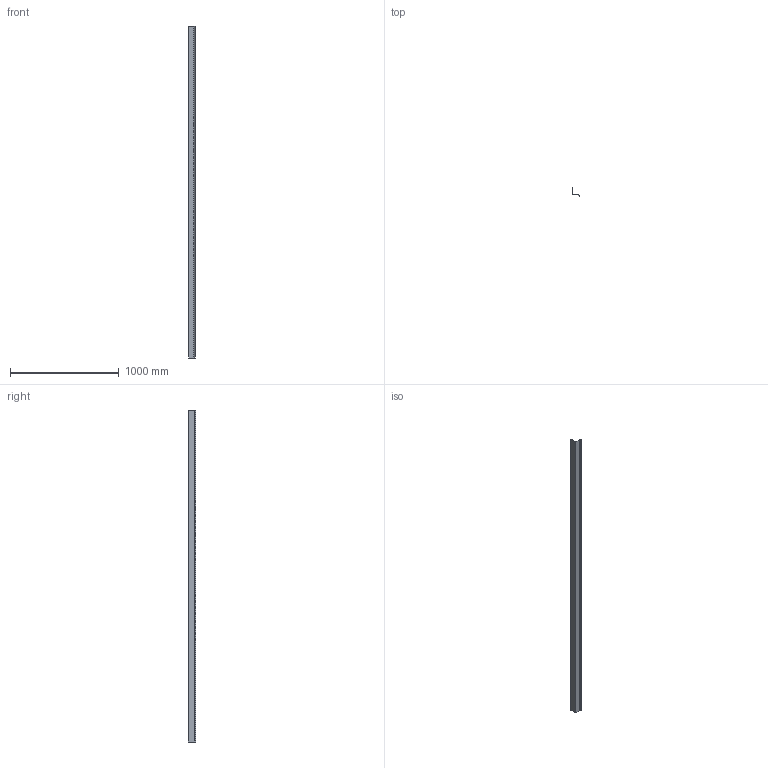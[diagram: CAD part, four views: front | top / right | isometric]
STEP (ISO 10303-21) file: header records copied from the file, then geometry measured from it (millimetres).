
FILE_DESCRIPTION (( 'STEP AP203' ), '1' );
FILE_NAME ('M51A.STEP', '2018-06-16T00:31:28', ( 'Michael Moliner' ), ( '' ), 'SwSTEP 2.0', 'SolidWorks 2018', '' );
FILE_SCHEMA (( 'CONFIG_CONTROL_DESIGN' ));
Length unit declared in the file: inch
Products named in the file (2): M51A
Bounding box: 59.48 x 72.45 x 3048 mm (x, y, z)
Volume: 212174.9 mm3; surface area: 838570.3 mm2
Topology: 1 solids, 1 shells, 18 faces, 48 edges, 32 vertices
Faces by surface type: plane 12, cylinder 6
Entity records: 721 total; most frequent: DIRECTION 100, CARTESIAN_POINT 100, ORIENTED_EDGE 96, EDGE_CURVE 48, LINE 36, VECTOR 36, VERTEX_POINT 32, AXIS2_PLACEMENT_3D 32
